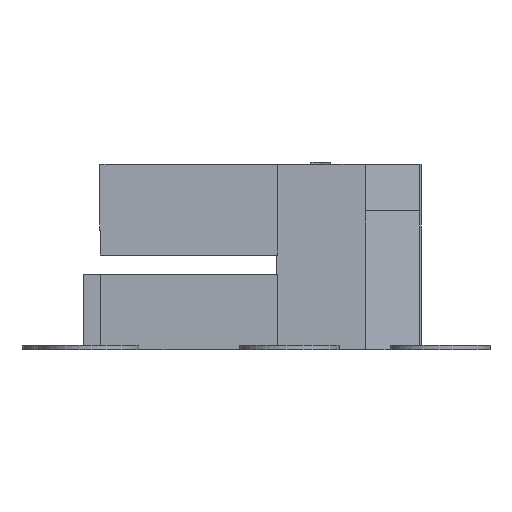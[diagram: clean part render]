
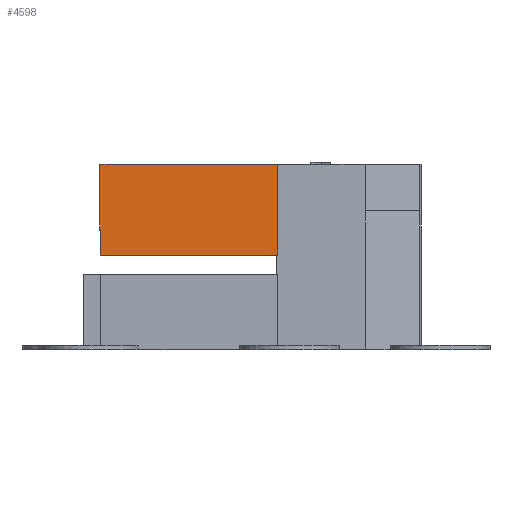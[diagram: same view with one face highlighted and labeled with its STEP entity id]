
A CAD part, front view. The second image highlights one B-rep face of the part: STEP entity #4598.
In plain terms, the highlighted planar face has unit normal (0, -1, 0).
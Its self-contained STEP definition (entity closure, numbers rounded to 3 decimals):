
#388=FACE_OUTER_BOUND('',#642,.T.);
#642=EDGE_LOOP('',(#3920,#3921,#3922,#3923,#3924,#3925,#3926,#3927));
#728=LINE('',#5992,#1279);
#901=LINE('',#6594,#1452);
#904=LINE('',#6600,#1455);
#906=LINE('',#6603,#1457);
#958=LINE('',#6721,#1509);
#1135=LINE('',#7743,#1686);
#1177=LINE('',#7835,#1728);
#1178=LINE('',#7836,#1729);
#1279=VECTOR('',#4934,10.);
#1452=VECTOR('',#5219,10.);
#1455=VECTOR('',#5224,10.);
#1457=VECTOR('',#5228,10.);
#1509=VECTOR('',#5338,10.);
#1686=VECTOR('',#5657,10.);
#1728=VECTOR('',#5745,10.);
#1729=VECTOR('',#5746,10.);
#1827=VERTEX_POINT('',#5989);
#1828=VERTEX_POINT('',#5991);
#2013=VERTEX_POINT('',#6593);
#2014=VERTEX_POINT('',#6597);
#2015=VERTEX_POINT('',#6599);
#2050=VERTEX_POINT('',#6717);
#2052=VERTEX_POINT('',#6720);
#2203=VERTEX_POINT('',#7834);
#2268=EDGE_CURVE('',#1827,#1828,#728,.T.);
#2488=EDGE_CURVE('',#2013,#1828,#901,.T.);
#2491=EDGE_CURVE('',#2015,#2014,#904,.T.);
#2493=EDGE_CURVE('',#2014,#2013,#906,.T.);
#2550=EDGE_CURVE('',#2052,#2050,#958,.T.);
#2771=EDGE_CURVE('',#2052,#1827,#1135,.T.);
#2818=EDGE_CURVE('',#2203,#2050,#1177,.T.);
#2819=EDGE_CURVE('',#2203,#2015,#1178,.T.);
#3920=ORIENTED_EDGE('',*,*,#2488,.T.);
#3921=ORIENTED_EDGE('',*,*,#2268,.F.);
#3922=ORIENTED_EDGE('',*,*,#2771,.F.);
#3923=ORIENTED_EDGE('',*,*,#2550,.T.);
#3924=ORIENTED_EDGE('',*,*,#2818,.F.);
#3925=ORIENTED_EDGE('',*,*,#2819,.T.);
#3926=ORIENTED_EDGE('',*,*,#2491,.T.);
#3927=ORIENTED_EDGE('',*,*,#2493,.T.);
#4364=PLANE('',#4834);
#4598=ADVANCED_FACE('',(#388),#4364,.F.);
#4834=AXIS2_PLACEMENT_3D('',#7833,#5743,#5744);
#4934=DIRECTION('',(1.,0.,0.));
#5219=DIRECTION('',(0.,0.,1.));
#5224=DIRECTION('',(0.,0.,1.));
#5228=DIRECTION('',(-1.,0.,0.));
#5338=DIRECTION('',(1.,0.,0.));
#5657=DIRECTION('',(0.,0.,1.));
#5743=DIRECTION('center_axis',(0.,1.,0.));
#5744=DIRECTION('ref_axis',(-1.,0.,0.));
#5745=DIRECTION('',(0.,0.,1.));
#5746=DIRECTION('',(1.,0.,0.));
#5989=CARTESIAN_POINT('',(-32.66,0.047,23.09));
#5991=CARTESIAN_POINT('',(-11.423,0.047,23.09));
#5992=CARTESIAN_POINT('',(-23.765,0.047,23.09));
#6593=CARTESIAN_POINT('',(-11.423,0.047,17.51));
#6594=CARTESIAN_POINT('',(-11.423,0.047,5.));
#6597=CARTESIAN_POINT('',(-11.413,0.047,17.51));
#6599=CARTESIAN_POINT('',(-11.413,0.047,12.239));
#6600=CARTESIAN_POINT('',(-11.413,0.047,5.));
#6603=CARTESIAN_POINT('',(-15.265,0.047,17.51));
#6717=CARTESIAN_POINT('',(-32.65,0.047,15.224));
#6720=CARTESIAN_POINT('',(-32.66,0.047,15.224));
#6721=CARTESIAN_POINT('',(-15.275,0.047,15.224));
#7743=CARTESIAN_POINT('',(-32.66,0.047,14.97));
#7833=CARTESIAN_POINT('Origin',(-23.76,0.047,14.97));
#7834=CARTESIAN_POINT('',(-32.65,0.047,12.239));
#7835=CARTESIAN_POINT('',(-32.65,0.047,14.97));
#7836=CARTESIAN_POINT('',(-17.595,0.047,12.239));
